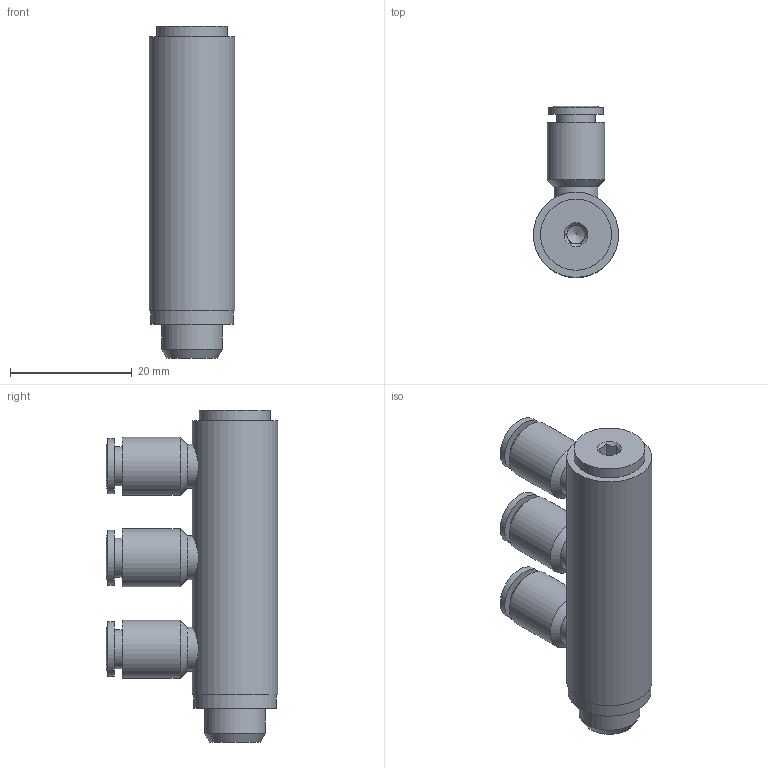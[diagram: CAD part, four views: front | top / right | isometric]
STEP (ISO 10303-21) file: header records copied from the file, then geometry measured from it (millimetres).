
FILE_DESCRIPTION((''),'2;1');
FILE_NAME('C:\Documents and Settings\rivolro1\Documenti\copia di Raccordi\PLASTICA\T34XXXX\T340418.stp','2007-11-03T09:17:01',('Rivolro1'),(''),'Autodesk Inventor 2008','Autodesk Inventor 2008','');
FILE_SCHEMA(('AUTOMOTIVE_DESIGN { 1 0 10303 214 1 1 1 1 }'));
Length unit declared in the file: millimetre
Products named in the file (1): T340418
Bounding box: 14 x 28.1 x 54.5 mm (x, y, z)
Volume: 9825.7 mm3; surface area: 4881.9 mm2
Topology: 1 solids, 1 shells, 64 faces, 124 edges, 80 vertices
Faces by surface type: plane 26, cylinder 16, bspline 15, cone 7
Full cylindrical faces by diameter (mm): 6.4 x3, 7.2 x3, 9 x3, 9.5 x3, 10 x1, 11.667 x1, 13.6 x1, 14 x1
Entity records: 1814 total; most frequent: CARTESIAN_POINT 627, DIRECTION 224, ORIENTED_EDGE 172, EDGE_LOOP 114, AXIS2_PLACEMENT_3D 103, EDGE_CURVE 86, VERTEX_POINT 74, FACE_OUTER_BOUND 64
